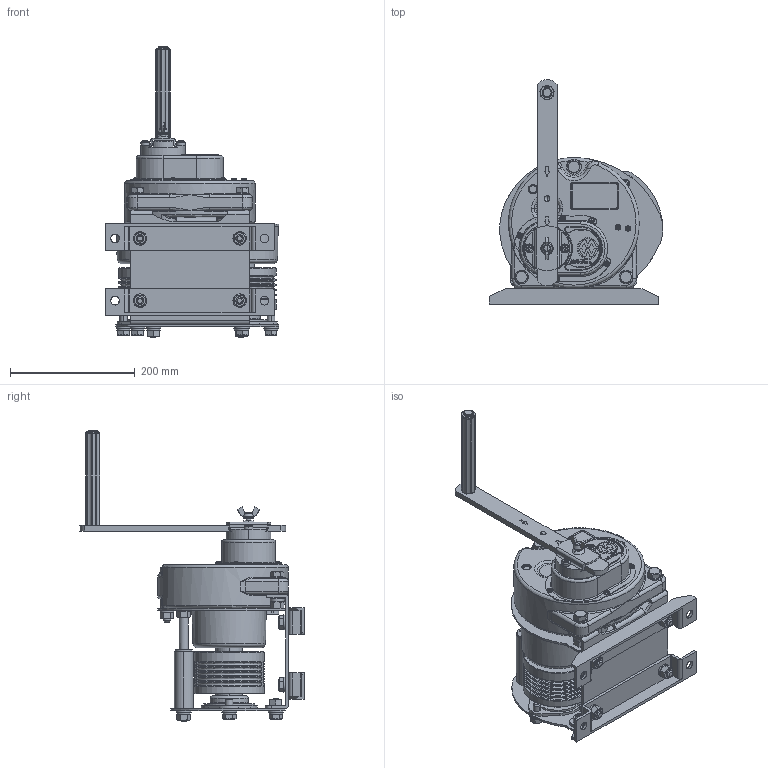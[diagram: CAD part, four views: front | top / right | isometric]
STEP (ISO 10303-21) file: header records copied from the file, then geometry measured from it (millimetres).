
FILE_DESCRIPTION( (''), '2;1');
FILE_NAME ('ME-5-SI-B.stp','2023-12-28T17:14:39',(''),(''),'spGate 19.8.2 (****-****-****-****)','','');
FILE_SCHEMA (('AUTOMOTIVE_DESIGN'));
Length unit declared in the file: millimetre
Products named in the file (7): Assembly; ME-5-SI-B-prt0; ME-5-SI-B-prt1; ME-5-SI-B-prt2; ME-5-SI-B-prt3; ME-5-SI-B-prt4; ME-5-SI-B-prt5
Assembly tree (6 placements, depth 2):
  Assembly
    ME-5-SI-B-prt0
    ME-5-SI-B-prt1
    ME-5-SI-B-prt2
    ME-5-SI-B-prt3
    ME-5-SI-B-prt4
    ME-5-SI-B-prt5
Bounding box: 279 x 360.43 x 468.5 mm (x, y, z)
Volume: 6849407.9 mm3; surface area: 747835.3 mm2
Topology: 6 solids, 6 shells, 2595 faces, 6639 edges, 4210 vertices
Faces by surface type: plane 1311, cylinder 847, bspline 415, sphere 22
Entity records: 138774 total; most frequent: CARTESIAN_POINT 24904, ORIENTED_EDGE 13230, DIRECTION 12255, COLOUR_RGB 9216, PRESENTATION_STYLE_ASSIGNMENT 9216, STYLED_ITEM 9216, EDGE_CURVE 6615, DRAUGHTING_PRE_DEFINED_CURVE_FONT 6615
